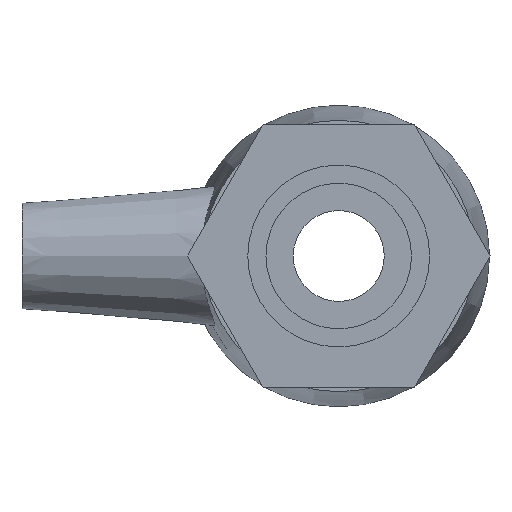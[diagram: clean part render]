
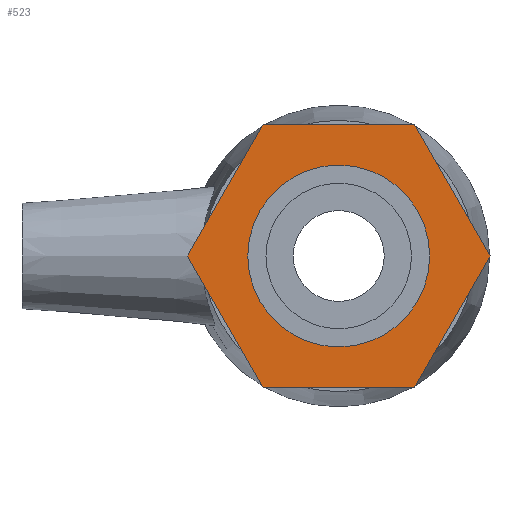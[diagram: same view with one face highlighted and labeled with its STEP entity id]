
A CAD part, left-side view. The second image highlights one B-rep face of the part: STEP entity #523.
In plain terms, the highlighted planar face has unit normal (-1, 0, 0).
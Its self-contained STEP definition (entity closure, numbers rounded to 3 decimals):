
#36=FACE_BOUND('',#154,.T.);
#68=CIRCLE('',#606,12.059);
#107=FACE_OUTER_BOUND('',#153,.T.);
#153=EDGE_LOOP('',(#447,#448,#449,#450,#451,#452));
#154=EDGE_LOOP('',(#453));
#165=LINE('',#788,#199);
#169=LINE('',#795,#203);
#172=LINE('',#801,#206);
#175=LINE('',#807,#209);
#178=LINE('',#813,#212);
#180=LINE('',#816,#214);
#199=VECTOR('',#622,10.);
#203=VECTOR('',#628,10.);
#206=VECTOR('',#633,10.);
#209=VECTOR('',#638,10.);
#212=VECTOR('',#643,10.);
#214=VECTOR('',#647,10.);
#233=VERTEX_POINT('',#785);
#234=VERTEX_POINT('',#787);
#236=VERTEX_POINT('',#793);
#238=VERTEX_POINT('',#799);
#240=VERTEX_POINT('',#805);
#242=VERTEX_POINT('',#811);
#271=VERTEX_POINT('',#978);
#277=EDGE_CURVE('',#234,#233,#165,.T.);
#281=EDGE_CURVE('',#233,#236,#169,.T.);
#284=EDGE_CURVE('',#236,#238,#172,.T.);
#287=EDGE_CURVE('',#238,#240,#175,.T.);
#290=EDGE_CURVE('',#240,#242,#178,.T.);
#292=EDGE_CURVE('',#242,#234,#180,.T.);
#335=EDGE_CURVE('',#271,#271,#68,.T.);
#447=ORIENTED_EDGE('',*,*,#284,.T.);
#448=ORIENTED_EDGE('',*,*,#287,.T.);
#449=ORIENTED_EDGE('',*,*,#290,.T.);
#450=ORIENTED_EDGE('',*,*,#292,.T.);
#451=ORIENTED_EDGE('',*,*,#277,.T.);
#452=ORIENTED_EDGE('',*,*,#281,.T.);
#453=ORIENTED_EDGE('',*,*,#335,.T.);
#489=PLANE('',#607);
#523=ADVANCED_FACE('',(#107,#36),#489,.T.);
#606=AXIS2_PLACEMENT_3D('',#980,#758,#759);
#607=AXIS2_PLACEMENT_3D('',#981,#760,#761);
#622=DIRECTION('',(0.,0.5,-0.866));
#628=DIRECTION('',(0.,-0.5,-0.866));
#633=DIRECTION('',(0.,-1.,0.));
#638=DIRECTION('',(0.,-0.5,0.866));
#643=DIRECTION('',(0.,0.5,0.866));
#647=DIRECTION('',(0.,1.,0.));
#758=DIRECTION('center_axis',(1.,0.,0.));
#759=DIRECTION('ref_axis',(0.,0.,-1.));
#760=DIRECTION('center_axis',(-1.,0.,0.));
#761=DIRECTION('ref_axis',(0.,0.,1.));
#785=CARTESIAN_POINT('',(-60.,20.059,0.));
#787=CARTESIAN_POINT('',(-60.,10.029,17.371));
#788=CARTESIAN_POINT('',(-60.,10.029,17.371));
#793=CARTESIAN_POINT('',(-60.,10.029,-17.371));
#795=CARTESIAN_POINT('',(-60.,20.059,0.));
#799=CARTESIAN_POINT('',(-60.,-10.029,-17.371));
#801=CARTESIAN_POINT('',(-60.,10.029,-17.371));
#805=CARTESIAN_POINT('',(-60.,-20.059,0.));
#807=CARTESIAN_POINT('',(-60.,-10.029,-17.371));
#811=CARTESIAN_POINT('',(-60.,-10.029,17.371));
#813=CARTESIAN_POINT('',(-60.,-20.059,0.));
#816=CARTESIAN_POINT('',(-60.,-10.029,17.371));
#978=CARTESIAN_POINT('',(-60.,-12.059,0.));
#980=CARTESIAN_POINT('Origin',(-60.,0.,0.));
#981=CARTESIAN_POINT('Origin',(-60.,13.559,0.));
